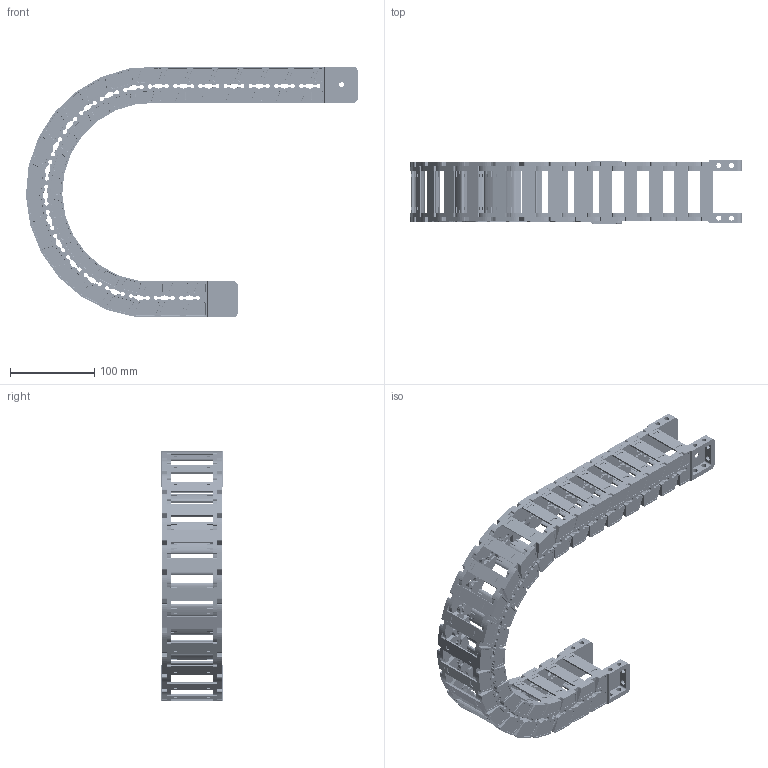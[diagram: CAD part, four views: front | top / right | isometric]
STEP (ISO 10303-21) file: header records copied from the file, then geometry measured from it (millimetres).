
FILE_DESCRIPTION((''),'2;1');
FILE_NAME('JY-35X50-R125_ASM','2025-01-05T19:38:32',('admin'),(''),'CREO PARAMETRIC BY PTC INC, 2021023','CREO PARAMETRIC BY PTC INC, 2021023','');
FILE_SCHEMA(('CONFIG_CONTROL_DESIGN'));
Length unit declared in the file: millimetre
Products named in the file (11): 35XL-L; YP; 35XL-R; ASM0001_ASM; 35-LTT-A-L; 35-LTT-A-R; 35XL-LTT-A_ASM; 35-LTT-B-L; 35-LTT-B-R; 35XL-LTT-B_ASM; JY-35X50-R125_ASM
Assembly tree (35 placements, depth 3):
  JY-35X50-R125_ASM
    ASM0001_ASM  x21
      35XL-L
      YP
      35XL-R
    35XL-LTT-A_ASM
      35-LTT-A-L
      YP  x2
      35-LTT-A-R
    35XL-LTT-B_ASM
      35-LTT-B-L
      YP  x2
      35-LTT-B-R
Bounding box: 395.09 x 74.5 x 298.23 mm (x, y, z)
Volume: 610173.9 mm3; surface area: 359034.9 mm2
Topology: 92 solids, 92 shells, 7504 faces, 22500 edges, 15188 vertices
Faces by surface type: plane 4246, cylinder 2466, cone 484, extrusion 176, bspline 132
Entity records: 27890 total; most frequent: CARTESIAN_POINT 6168, ORIENTED_EDGE 4640, DIRECTION 4365, EDGE_CURVE 2320, VERTEX_POINT 1568, AXIS2_PLACEMENT_3D 1474, VECTOR 1417, LINE 1401
